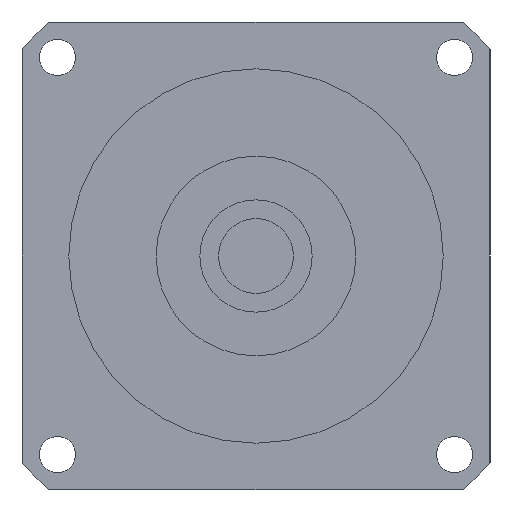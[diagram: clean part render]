
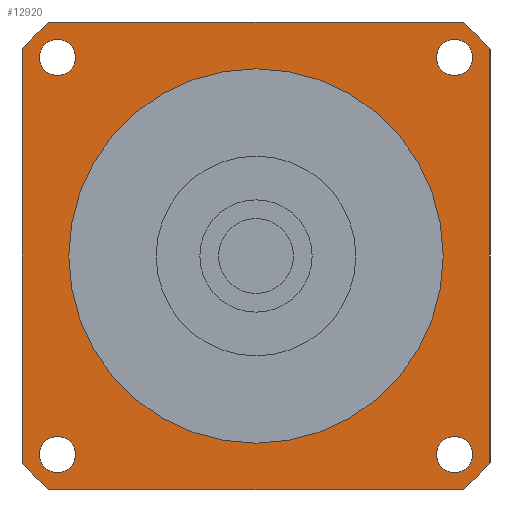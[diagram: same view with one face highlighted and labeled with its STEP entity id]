
A CAD part, left-side view. The second image highlights one B-rep face of the part: STEP entity #12920.
In plain terms, the highlighted planar face has unit normal (-1, 0, 0) as drawn and (0, 0, -1) by its records, which use the part's own axes.
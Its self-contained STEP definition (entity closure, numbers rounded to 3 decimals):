
#8790=CARTESIAN_POINT('',(-31.82,-28.92,-37.));
#8800=VERTEX_POINT('',#8790);
#8830=CARTESIAN_POINT('',(-31.82,-31.82,-37.));
#8840=DIRECTION('',(0.,0.,-1.));
#8850=DIRECTION('',(0.,-1.,0.));
#8860=AXIS2_PLACEMENT_3D('',#8830,#8840,#8850);
#8870=CIRCLE('',#8860,2.9);
#8880=CARTESIAN_POINT('',(-31.82,-34.72,-37.));
#8890=VERTEX_POINT('',#8880);
#8900=EDGE_CURVE('',#8890,#8800,#8870,.T.);
#9140=CARTESIAN_POINT('',(33.072,-37.5,-37.));
#9150=VERTEX_POINT('',#9140);
#9200=CARTESIAN_POINT('',(37.5,-37.5,-37.));
#9210=DIRECTION('',(-1.,0.,0.));
#9220=VECTOR('',#9210,1000.);
#9230=LINE('',#9200,#9220);
#9240=CARTESIAN_POINT('',(-33.072,-37.5,-37.));
#9250=VERTEX_POINT('',#9240);
#9260=EDGE_CURVE('',#9150,#9250,#9230,.T.);
#11420=CARTESIAN_POINT('',(0.,-30.,-37.));
#11430=VERTEX_POINT('',#11420);
#11460=CARTESIAN_POINT('',(0.,0.,
-37.));
#11470=DIRECTION('',(0.,0.,1.));
#11480=DIRECTION('',(1.,0.,0.));
#11490=AXIS2_PLACEMENT_3D('',#11460,#11470,#11480);
#11500=CIRCLE('',#11490,30.);
#11510=CARTESIAN_POINT('',(30.,0.,-37.));
#11520=VERTEX_POINT('',#11510);
#11530=EDGE_CURVE('',#11430,#11520,#11500,.T.);
#11550=CARTESIAN_POINT('',(0.,30.,-37.));
#11560=VERTEX_POINT('',#11550);
#11570=EDGE_CURVE('',#11520,#11560,#11500,.T.);
#11700=CARTESIAN_POINT('',(37.5,-37.5,-37.));
#11710=DIRECTION('',(0.,0.,-1.));
#11720=DIRECTION('',(0.,-1.,0.));
#11730=AXIS2_PLACEMENT_3D('',#11700,#11710,#11720);
#11740=PLANE('',#11730);
#11750=CARTESIAN_POINT('',(-31.82,31.82,-37.));
#11760=DIRECTION('',(0.,0.,-1.));
#11770=DIRECTION('',(-1.,0.,0.));
#11780=AXIS2_PLACEMENT_3D('',#11750,#11760,#11770);
#11790=CIRCLE('',#11780,2.9);
#11800=CARTESIAN_POINT('',(-34.72,31.82,-37.));
#11810=VERTEX_POINT('',#11800);
#11820=CARTESIAN_POINT('',(-28.92,31.82,-37.));
#11830=VERTEX_POINT('',#11820);
#11840=EDGE_CURVE('',#11810,#11830,#11790,.T.);
#11850=ORIENTED_EDGE('',*,*,#11840,.F.);
#11860=EDGE_CURVE('',#11830,#11810,#11790,.T.);
#11870=ORIENTED_EDGE('',*,*,#11860,.F.);
#11880=EDGE_LOOP('',(#11870,#11850));
#11890=FACE_BOUND('',#11880,.T.);
#11900=CARTESIAN_POINT('',(31.82,31.82,-37.));
#11910=DIRECTION('',(0.,0.,-1.));
#11920=DIRECTION('',(0.,1.,0.));
#11930=AXIS2_PLACEMENT_3D('',#11900,#11910,#11920);
#11940=CIRCLE('',#11930,2.9);
#11950=CARTESIAN_POINT('',(31.82,34.72,-37.));
#11960=VERTEX_POINT('',#11950);
#11970=CARTESIAN_POINT('',(31.82,28.92,-37.));
#11980=VERTEX_POINT('',#11970);
#11990=EDGE_CURVE('',#11960,#11980,#11940,.T.);
#12000=ORIENTED_EDGE('',*,*,#11990,.F.);
#12010=EDGE_CURVE('',#11980,#11960,#11940,.T.);
#12020=ORIENTED_EDGE('',*,*,#12010,.F.);
#12030=EDGE_LOOP('',(#12020,#12000));
#12040=FACE_BOUND('',#12030,.T.);
#12050=CARTESIAN_POINT('',(31.82,-31.82,-37.));
#12060=DIRECTION('',(0.,0.,-1.));
#12070=DIRECTION('',(1.,0.,0.));
#12080=AXIS2_PLACEMENT_3D('',#12050,#12060,#12070);
#12090=CIRCLE('',#12080,2.9);
#12100=CARTESIAN_POINT('',(34.72,-31.82,-37.));
#12110=VERTEX_POINT('',#12100);
#12120=CARTESIAN_POINT('',(28.92,-31.82,-37.));
#12130=VERTEX_POINT('',#12120);
#12140=EDGE_CURVE('',#12110,#12130,#12090,.T.);
#12150=ORIENTED_EDGE('',*,*,#12140,.F.);
#12160=EDGE_CURVE('',#12130,#12110,#12090,.T.);
#12170=ORIENTED_EDGE('',*,*,#12160,.F.);
#12180=EDGE_LOOP('',(#12170,#12150));
#12190=FACE_BOUND('',#12180,.T.);
#12200=EDGE_CURVE('',#11560,#11430,#11500,.T.);
#12210=ORIENTED_EDGE('',*,*,#12200,.T.);
#12220=ORIENTED_EDGE('',*,*,#11570,.T.);
#12230=ORIENTED_EDGE('',*,*,#11530,.T.);
#12240=EDGE_LOOP('',(#12230,#12220,#12210));
#12250=FACE_BOUND('',#12240,.T.);
#12260=CARTESIAN_POINT('',(37.5,37.5,-37.));
#12270=DIRECTION('',(0.,-1.,0.));
#12280=VECTOR('',#12270,1000.);
#12290=LINE('',#12260,#12280);
#12300=CARTESIAN_POINT('',(37.5,33.072,-37.));
#12310=VERTEX_POINT('',#12300);
#12320=CARTESIAN_POINT('',(37.5,-33.072,-37.));
#12330=VERTEX_POINT('',#12320);
#12340=EDGE_CURVE('',#12310,#12330,#12290,.T.);
#12350=ORIENTED_EDGE('',*,*,#12340,.T.);
#12360=CARTESIAN_POINT('',(0.,0.,
-37.));
#12370=DIRECTION('',(0.,0.,-1.));
#12380=DIRECTION('',(0.,-1.,0.));
#12390=AXIS2_PLACEMENT_3D('',#12360,#12370,#12380);
#12400=CIRCLE('',#12390,50.);
#12410=CARTESIAN_POINT('',(33.072,37.5,-37.));
#12420=VERTEX_POINT('',#12410);
#12430=EDGE_CURVE('',#12420,#12310,#12400,.T.);
#12440=ORIENTED_EDGE('',*,*,#12430,.T.);
#12450=CARTESIAN_POINT('',(-37.5,37.5,-37.));
#12460=DIRECTION('',(1.,0.,0.));
#12470=VECTOR('',#12460,1000.);
#12480=LINE('',#12450,#12470);
#12490=CARTESIAN_POINT('',(-33.072,37.5,-37.));
#12500=VERTEX_POINT('',#12490);
#12510=EDGE_CURVE('',#12500,#12420,#12480,.T.);
#12520=ORIENTED_EDGE('',*,*,#12510,.T.);
#12530=CARTESIAN_POINT('',(0.,0.,
-37.));
#12540=DIRECTION('',(0.,0.,-1.));
#12550=DIRECTION('',(0.,-1.,0.));
#12560=AXIS2_PLACEMENT_3D('',#12530,#12540,#12550);
#12570=CIRCLE('',#12560,50.);
#12580=CARTESIAN_POINT('',(-37.5,33.072,-37.));
#12590=VERTEX_POINT('',#12580);
#12600=EDGE_CURVE('',#12590,#12500,#12570,.T.);
#12610=ORIENTED_EDGE('',*,*,#12600,.T.);
#12620=CARTESIAN_POINT('',(-37.5,-37.5,-37.));
#12630=DIRECTION('',(0.,1.,0.));
#12640=VECTOR('',#12630,1000.);
#12650=LINE('',#12620,#12640);
#12660=CARTESIAN_POINT('',(-37.5,-33.072,-37.));
#12670=VERTEX_POINT('',#12660);
#12680=EDGE_CURVE('',#12670,#12590,#12650,.T.);
#12690=ORIENTED_EDGE('',*,*,#12680,.T.);
#12700=CARTESIAN_POINT('',(0.,0.,
-37.));
#12710=DIRECTION('',(0.,0.,-1.));
#12720=DIRECTION('',(0.,-1.,0.));
#12730=AXIS2_PLACEMENT_3D('',#12700,#12710,#12720);
#12740=CIRCLE('',#12730,50.);
#12750=EDGE_CURVE('',#9250,#12670,#12740,.T.);
#12760=ORIENTED_EDGE('',*,*,#12750,.T.);
#12770=ORIENTED_EDGE('',*,*,#9260,.T.);
#12780=CARTESIAN_POINT('',(0.,0.,
-37.));
#12790=DIRECTION('',(0.,0.,-1.));
#12800=DIRECTION('',(0.,-1.,0.));
#12810=AXIS2_PLACEMENT_3D('',#12780,#12790,#12800);
#12820=CIRCLE('',#12810,50.);
#12830=EDGE_CURVE('',#12330,#9150,#12820,.T.);
#12840=ORIENTED_EDGE('',*,*,#12830,.T.);
#12850=EDGE_LOOP('',(#12840,#12770,#12760,#12690,#12610,#12520,#12440,
#12350));
#12860=FACE_OUTER_BOUND('',#12850,.T.);
#12870=ORIENTED_EDGE('',*,*,#8900,.F.);
#12880=EDGE_CURVE('',#8800,#8890,#8870,.T.);
#12890=ORIENTED_EDGE('',*,*,#12880,.F.);
#12900=EDGE_LOOP('',(#12890,#12870));
#12910=FACE_BOUND('',#12900,.T.);
#12920=ADVANCED_FACE('',(#11890,#12040,#12190,#12250,#12860,#12910),
#11740,.T.);
